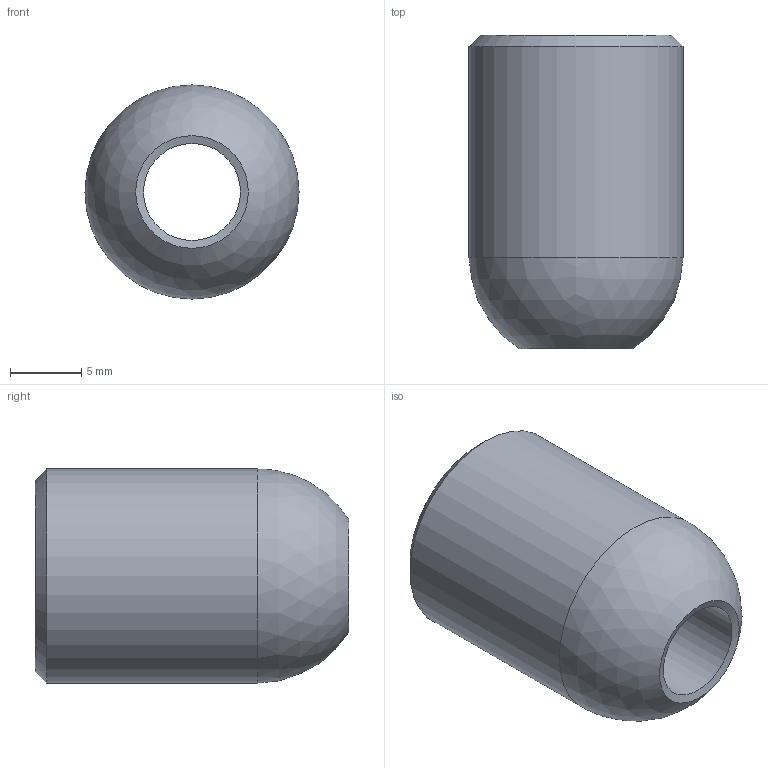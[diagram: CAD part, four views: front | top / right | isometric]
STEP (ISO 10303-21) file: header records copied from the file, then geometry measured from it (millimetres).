
FILE_DESCRIPTION(/* description */ (''),/* implementation_level */ '2;1');
FILE_NAME(/* name */ 'WHEELS-INSERT.25.stp',/* time_stamp */ '2018-05-25T14:28:28+02:00',/* author */ (''),/* organization */ (''),/* preprocessor_version */ 'ST-DEVELOPER v16.7',/* originating_system */ 'SIEMENS PLM Software NX 12.0',/* authorisation */ '');
FILE_SCHEMA (('AP203_CONFIGURATION_CONTROLLED_3D_DESIGN_OF_MECHANICAL_PARTS_AND_ASSEMBLIES_MIM_LF { 1 0 10303 403 2 1 2}'));
Length unit declared in the file: millimetre
Products named in the file (1): turc66A81BAD9zhl
Bounding box: 15 x 21.98 x 15 mm (x, y, z)
Volume: 2794.3 mm3; surface area: 1625.2 mm2
Topology: 1 solids, 1 shells, 7 faces, 16 edges, 10 vertices
Faces by surface type: cone 3, cylinder 2, plane 1, sphere 1
Full cylindrical faces by diameter (mm): 6.8 x1, 15 x1
Entity records: 250 total; most frequent: DIRECTION 30, CARTESIAN_POINT 22, AXIS2_PLACEMENT_3D 15, FACE_BOUND 14, EDGE_LOOP 14, ORIENTED_EDGE 14, PERSON_AND_ORGANIZATION 7, ORGANIZATION 7
